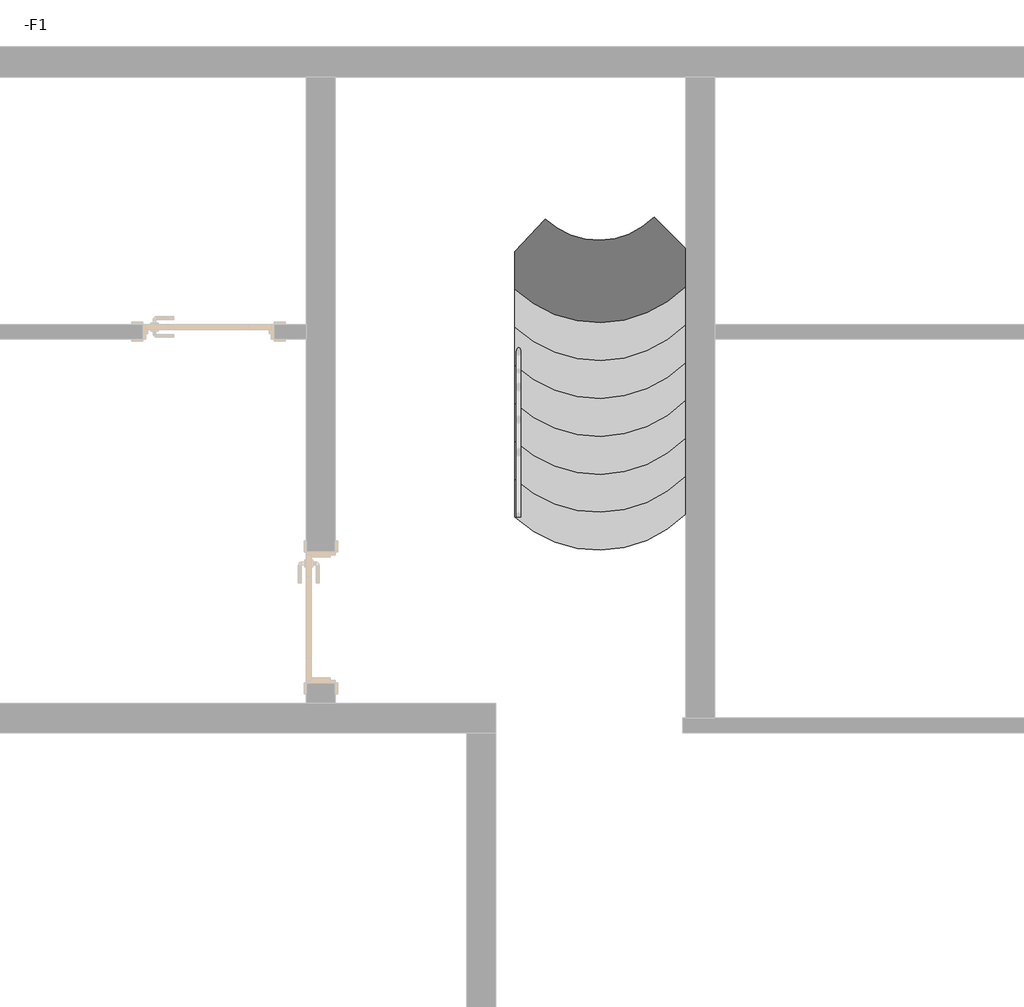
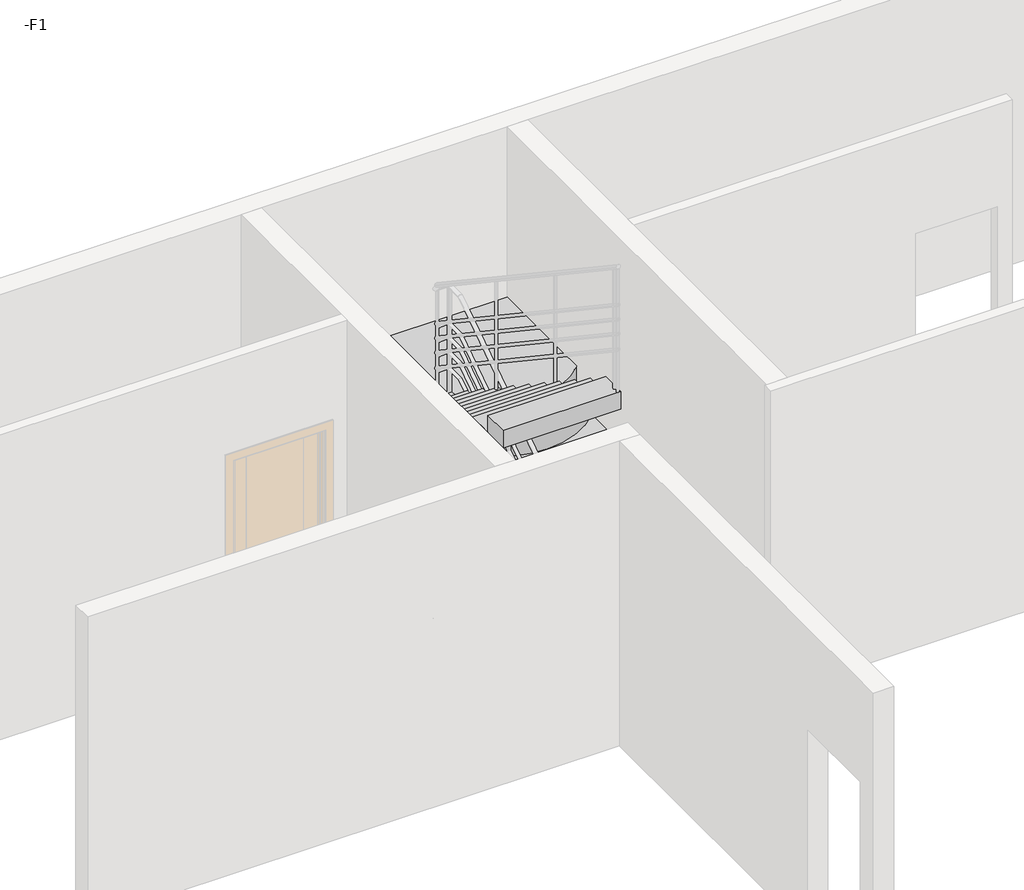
# One storey, part 3 of 3: 1 stair flight.
"""IFC4 building model written with IfcOpenShell, lengths in millimetres."""

import ifcopenshell
import ifcopenshell.guid

model = None  # the IFC model being written
_history = None  # IfcOwnerHistory: only IFC2X3 demands one
_inside = {}  # id of a spatial element -> (the spatial element, [elements in it])
_under = {}  # id of a project, library or spatial element -> (it, [spatial elements below it])
_declared = {}  # id of a project -> (the project, [libraries it declares])
_typed = {}  # id of a type object -> (the type object, [elements of that type])
_made_of = {}  # id of a material, layer set ... -> (it, [elements and type objects made of it])


def new_model(schema):
    """Start an empty IFC model of exactly this schema.

    Asked for "IFC4X3", IfcOpenShell would pick the latest addendum, in which some entities
    have other attributes; the version numbers below select the first issue.
    IFC2X3 requires an IfcOwnerHistory on every rooted entity: one is made here for all.
    """
    global model, _history
    if schema == "IFC4X3":
        model = ifcopenshell.file(schema_version=(4, 3, 0, 0))
    else:
        model = ifcopenshell.file(schema=schema)
    _inside.clear()
    _under.clear()
    _declared.clear()
    _typed.clear()
    _made_of.clear()
    _history = None
    if model.schema == "IFC2X3":
        org = make("IfcOrganization", Name="unknown")
        user = make(
            "IfcPersonAndOrganization",
            ThePerson=make("IfcPerson", FamilyName="unknown"),
            TheOrganization=org,
        )
        app = make(
            "IfcApplication",
            ApplicationDeveloper=org,
            Version="unknown",
            ApplicationFullName="unknown",
            ApplicationIdentifier="unknown",
        )
        _history = make(
            "IfcOwnerHistory",
            OwningUser=user,
            OwningApplication=app,
            ChangeAction="ADDED",
            CreationDate=0,
        )
    return model


def make(cls, **values):
    """One entity of the class cls with the attributes given. An attribute that is None is left unset."""
    return model.create_entity(
        cls, **{name: value for name, value in values.items() if value is not None}
    )


def rooted(cls, **values):
    """An entity with a GlobalId (a new one), such as an element, a storey or a relation."""
    return make(cls, GlobalId=ifcopenshell.guid.new(), OwnerHistory=_history, **values)


def si_unit(unit_type, name, prefix=None):
    """IfcSIUnit, for example si_unit("LENGTHUNIT", "METRE", prefix="MILLI")."""
    return make("IfcSIUnit", UnitType=unit_type, Prefix=prefix, Name=name)


def assignment(units):
    """IfcUnitAssignment: the units of a project."""
    return None if units is None else make("IfcUnitAssignment", Units=units)


def point(xyz):
    """IfcCartesianPoint."""
    return None if xyz is None else make("IfcCartesianPoint", Coordinates=xyz)


def direction(xyz):
    """IfcDirection."""
    return None if xyz is None else make("IfcDirection", DirectionRatios=xyz)


def frame(location, z_axis=None, x_axis=None):
    """IfcAxis2Placement3D, a coordinate frame: its origin and axes. An axis left out is left unset."""
    return make(
        "IfcAxis2Placement3D",
        Location=point(location),
        Axis=direction(z_axis),
        RefDirection=direction(x_axis),
    )


def origin():
    """The frame at (0, 0, 0) with its axes left unset."""
    return frame((0.0, 0.0, 0.0))


def place(relative_to, where):
    """IfcLocalPlacement: puts the frame where relative to a parent placement (None: the world)."""
    return make(
        "IfcLocalPlacement", PlacementRelTo=relative_to, RelativePlacement=where
    )


def context(
    kind, dimensions, precision=None, world=None, true_north=None, identifier=None
):
    """IfcGeometricRepresentationContext, for example the 3D "Model" context."""
    return make(
        "IfcGeometricRepresentationContext",
        ContextIdentifier=identifier,
        ContextType=kind,
        CoordinateSpaceDimension=dimensions,
        Precision=precision,
        WorldCoordinateSystem=world,
        TrueNorth=true_north,
    )


def project(units=None, contexts=None):
    """IfcProject with its units and contexts."""
    return rooted(
        "IfcProject",
        Name="project",
        RepresentationContexts=contexts,
        UnitsInContext=assignment(units),
    )


def spatial(cls, under=None, at=None, **own):
    """A site, building, storey or space (cls), placed at a placement, below another one or the project."""
    s = rooted(cls, ObjectPlacement=at, **own)
    if under is not None:
        _under.setdefault(under.id(), (under, []))[1].append(s)
    return s


def polyline(points):
    """IfcPolyline through the points."""
    return make("IfcPolyline", Points=[point(p) for p in points])


def circle_curve(where, radius):
    """IfcCircle in the frame where."""
    return make("IfcCircle", Position=where, Radius=radius)


def ellipse_curve(where, semi_axis1, semi_axis2):
    """IfcEllipse in the frame where."""
    return make(
        "IfcEllipse", Position=where, SemiAxis1=semi_axis1, SemiAxis2=semi_axis2
    )


def shape(context_of_items, identifier, shape_type, items):
    """IfcShapeRepresentation: the items that make up one representation, for example the "Body"."""
    return make(
        "IfcShapeRepresentation",
        ContextOfItems=context_of_items,
        RepresentationIdentifier=identifier,
        RepresentationType=shape_type,
        Items=items,
    )


def made_of(thing, what):
    """Note that an element or type object is made of a material, layer set ...; save() writes the relation."""
    if what is not None:
        _made_of.setdefault(what.id(), (what, []))[1].append(thing)
    return thing


def element(
    cls,
    number,
    at=None,
    inside=None,
    cuts=None,
    type_object=None,
    material=None,
    context=None,
    identifier="Body",
    shape_type=None,
    held_by="IfcProductDefinitionShape",
    body=None,
    shapes=None,
    **own,
):
    """One element of the class cls, such as IfcWall. Its Tag is "e" and its number.

    at: its placement. inside: the storey or other place that contains it. cuts: it is an
    opening in that element (IfcRelVoidsElement). A single representation is given by context,
    identifier, shape_type and body (its items); several are given by shapes. held_by: the class
    of the entity that holds the representations. save() writes the other relations.
    """
    e = rooted(cls, Tag="e%d" % number, ObjectPlacement=at, **own)
    if body is not None:
        shapes = [shape(context, identifier, shape_type, body)]
    if shapes is not None:
        e.Representation = make(held_by, Representations=shapes)
    if inside is not None:
        _inside.setdefault(inside.id(), (inside, []))[1].append(e)
    if cuts is not None:
        rooted(
            "IfcRelVoidsElement", RelatingBuildingElement=cuts, RelatedOpeningElement=e
        )
    if type_object is not None:
        _typed.setdefault(type_object.id(), (type_object, []))[1].append(e)
    return made_of(e, material)


def aggregate(whole, parts):
    """IfcRelAggregates: a whole, such as a stair, and the parts it consists of."""
    return rooted("IfcRelAggregates", RelatingObject=whole, RelatedObjects=parts)


def save(model, path):
    """Write the relations noted so far, then the file.

    IfcRelAggregates (storeys below a building ...), IfcRelContainedInSpatialStructure (elements
    in a storey), IfcRelDefinesByType, IfcRelAssociatesMaterial and IfcRelDeclares: one each for
    every whole, place, type object, material and project.
    """
    for whole, parts in _under.values():
        aggregate(whole, parts)
    for where, things in _inside.values():
        rooted(
            "IfcRelContainedInSpatialStructure",
            RelatedElements=things,
            RelatingStructure=where,
        )
    for kind, things in _typed.values():
        rooted("IfcRelDefinesByType", RelatedObjects=things, RelatingType=kind)
    for what, things in _made_of.values():
        rooted("IfcRelAssociatesMaterial", RelatedObjects=things, RelatingMaterial=what)
    for by, libraries in _declared.values():
        rooted("IfcRelDeclares", RelatingContext=by, RelatedDefinitions=libraries)
    model.write(path)


def plane_surface(at):
    """IfcPlane: the flat surface through the origin of the frame at, square to its z axis."""
    return make("IfcPlane", Position=at)


def cylinder_surface(at, radius):
    """IfcCylindricalSurface: all points at the distance radius from the z axis of the frame at."""
    return make("IfcCylindricalSurface", Position=at, Radius=radius)


def revolved_surface(curve, axis_point, axis_direction):
    """IfcSurfaceOfRevolution: the curve turned about the line through axis_point along axis_direction."""
    return make(
        "IfcSurfaceOfRevolution",
        SweptCurve=make("IfcArbitraryOpenProfileDef", ProfileType="CURVE", Curve=curve),
        AxisPosition=make("IfcAxis1Placement", Location=point(axis_point), Axis=direction(axis_direction)),
    )


def advanced_brep(points, edges, surfaces, faces):
    """IfcAdvancedBrep: a solid bounded by faces that lie on surfaces and meet in shared edges.

    An edge is (start, end): straight between two places in points (the first is 0);
    or (start, end, curve); or (start, end, curve, False) where it runs against its curve.
    A face is (place in surfaces, loops), or (place, loops, False) where it looks against
    its surface's normal. A loop lists edges by number (the first is 1), with a minus sign
    where the edge is run from its end to its start. The first loop is the outer one.
    """
    corners = [point(p) for p in points]
    vertices = [make("IfcVertexPoint", VertexGeometry=c) for c in corners]
    made = []
    for start, end, *more in edges:
        made.append(
            make(
                "IfcEdgeCurve",
                EdgeStart=vertices[start],
                EdgeEnd=vertices[end],
                EdgeGeometry=more[0] if more else make("IfcPolyline", Points=[corners[start], corners[end]]),
                SameSense=more[1] if len(more) > 1 else True,
            )
        )
    hull = []
    for where, loops, *sense in faces:
        bounds = []
        for j, loop in enumerate(loops):
            ring = [make("IfcOrientedEdge", EdgeElement=made[abs(k) - 1], Orientation=k > 0) for k in loop]
            bounds.append(
                make(
                    "IfcFaceOuterBound" if j == 0 else "IfcFaceBound",
                    Bound=make("IfcEdgeLoop", EdgeList=ring),
                    Orientation=True,
                )
            )
        hull.append(make("IfcAdvancedFace", Bounds=bounds, FaceSurface=surfaces[where], SameSense=sense[0] if sense else True))
    return make("IfcAdvancedBrep", Outer=make("IfcClosedShell", CfsFaces=hull))


model = new_model("IFC4")

# Units and contexts
model_context = context("Model", 3, world=origin())
ifc_project = project(units=[si_unit("LENGTHUNIT", "METRE", prefix="MILLI")], contexts=[model_context])

# Site, building, storey
site = spatial("IfcSite", under=ifc_project)
building = spatial("IfcBuilding", under=site)
storey = spatial("IfcBuildingStorey", under=building, Name="-F1", Elevation=-3300.0)

# Stair flight
placement = place(None, origin())
element("IfcStairFlight", 1, ObjectType="150mm 结构深度", at=placement, inside=storey, context=model_context, shape_type="AdvancedBrep", body=[
    advanced_brep(
    [(-11225.9782681, -2391.0286905, -3126.3157895), (-11225.9782681, -2651.0286905, -3126.3157895), (-10055.9782681, -2631.5689641, -3126.3157895), (-10055.9782681, -2371.5689641, -3126.3157895), (-11225.9782681, -2391.0286905, -3300.0), (-11225.9782681, -2651.0286905, -3300.0), (-10055.9782681, -2631.5689641, -3300.0), (-10055.9782681, -2371.5689641, -3300.0), (-11225.9782681, -2131.0286905, -2952.6315789), (-11225.9782681, -2391.0286905, -2952.6315789), (-10055.9782681, -2371.5689641, -2952.6315789), (-10055.9782681, -2111.5689641, -2952.6315789), (-11225.9782681, -2131.0286905, -3133.0292074), (-11225.9782681, -2380.9789073, -3300.0), (-10055.9782681, -2361.519181, -3300.0), (-10055.9782681, -2111.5689641, -3133.0292074), (-11225.9782681, -1871.0286905, -2778.9473684), (-11225.9782681, -2131.0286905, -2778.9473684), (-10055.9782681, -2111.5689641, -2778.9473684), (-10055.9782681, -1851.5689641, -2778.9473684), (-11225.9782681, -1871.0286905, -2959.3449968), (-10055.9782681, -1851.5689641, -2959.3449968), (-11225.9782681, -1611.0286905, -2605.2631579), (-11225.9782681, -1871.0286905, -2605.2631579), (-10055.9782681, -1851.5689641, -2605.2631579), (-10055.9782681, -1591.5689641, -2605.2631579), (-11225.9782681, -1611.0286905, -2785.6607863), (-10055.9782681, -1591.5689641, -2785.6607863), (-11225.9782681, -1351.0286905, -2431.5789474), (-11225.9782681, -1611.0286905, -2431.5789474), (-10055.9782681, -1591.5689641, -2431.5789474), (-10055.9782681, -1331.5689641, -2431.5789474), (-11225.9782681, -1351.0286905, -2611.9765758), (-10055.9782681, -1331.5689641, -2611.9765758), (-11225.9782681, -1091.0286905, -2257.8947368), (-11225.9782681, -1351.0286905, -2257.8947368), (-10055.9782681, -1331.5689641, -2257.8947368), (-10055.9782681, -1071.5689641, -2257.8947368), (-11225.9782681, -1091.0286905, -2438.2923652), (-10055.9782681, -1071.5689641, -2438.2923652), (-11225.9782681, -831.0286905, -2084.2105263), (-11225.9782681, -1091.0286905, -2084.2105263), (-10055.9782681, -1071.5689641, -2084.2105263), (-10055.9782681, -811.5689641, -2084.2105263), (-11225.9782681, -831.0286905, -2264.6081547), (-10055.9782681, -811.5689641, -2264.6081547), (-11285.9782681, -831.0286905, -1910.5263158), (-11285.9782681, -651.0286905, -1910.5263158), (-11225.9782681, -651.0286905, -1910.5263158), (-11225.9782681, -831.0286905, -1910.5263158), (-10055.9782681, -811.5689641, -1910.5263158), (-10055.9782681, 363.9713095, -1910.5263158), (-12435.9782681, 363.9713095, -1910.5263158), (-12435.9782681, -831.0286905, -1910.5263158), (-11285.9782681, -831.0286905, -2060.5263158), (-11285.9782681, -651.0286905, -2060.5263158), (-11225.9782681, -651.0286905, -2060.5263158), (-11225.9782681, -831.0286905, -2060.5263158), (-10055.9782681, -811.5689641, -2060.5263158), (-10055.9782681, 363.9713095, -2060.5263158), (-12435.9782681, 363.9713095, -2060.5263158), (-12435.9782681, -831.0286905, -2060.5263158), (-11285.9782681, -831.0286905, -1736.8421053), (-12435.9782681, -831.0286905, -1736.8421053), (-12435.9782681, -876.5214946, -1736.8421053), (-12435.9782681, -1091.0286905, -1736.8421053), (-11285.9782681, -1091.0286905, -1736.8421053), (-11285.9782681, -876.5214946, -1736.8421053), (-11285.9782681, -1091.0286905, -1917.2320352), (-11285.9782681, -876.5214946, -2060.5263158), (-12435.9782681, -876.5214946, -2060.5263158), (-12435.9782681, -1091.0286905, -1917.2320352), (-11285.9782681, -1351.0286905, -1563.1578947), (-11285.9782681, -1091.0286905, -1563.1578947), (-12435.9782681, -1091.0286905, -1563.1578947), (-12435.9782681, -1351.0286905, -1563.1578947), (-11285.9782681, -1351.0286905, -1743.5478246), (-12435.9782681, -1351.0286905, -1743.5478246), (-11285.9782681, -1611.0286905, -1389.4736842), (-11285.9782681, -1351.0286905, -1389.4736842), (-12435.9782681, -1351.0286905, -1389.4736842), (-12435.9782681, -1611.0286905, -1389.4736842), (-11285.9782681, -1611.0286905, -1569.8636141), (-12435.9782681, -1611.0286905, -1569.8636141), (-11285.9782681, -1871.0286905, -1215.7894737), (-11285.9782681, -1611.0286905, -1215.7894737), (-12435.9782681, -1611.0286905, -1215.7894737), (-12435.9782681, -1871.0286905, -1215.7894737), (-11285.9782681, -1871.0286905, -1396.1794036), (-12435.9782681, -1871.0286905, -1396.1794036), (-11285.9782681, -2131.0286905, -1042.1052632), (-11285.9782681, -1871.0286905, -1042.1052632), (-12435.9782681, -1871.0286905, -1042.1052632), (-12435.9782681, -2131.0286905, -1042.1052632), (-11285.9782681, -2131.0286905, -1222.4951931), (-12435.9782681, -2131.0286905, -1222.4951931), (-11285.9782681, -2391.0286905, -868.4210526), (-11285.9782681, -2131.0286905, -868.4210526), (-12435.9782681, -2131.0286905, -868.4210526), (-12435.9782681, -2391.0286905, -868.4210526), (-11285.9782681, -2391.0286905, -1048.8109825), (-12435.9782681, -2391.0286905, -1048.8109825), (-11285.9782681, -2651.0286905, -694.7368421), (-11285.9782681, -2391.0286905, -694.7368421), (-12435.9782681, -2391.0286905, -694.7368421), (-12435.9782681, -2651.0286905, -694.7368421), (-11285.9782681, -2651.0286905, -875.126772), (-12435.9782681, -2651.0286905, -875.126772), (-11285.9782681, -2911.0286905, -521.0526316), (-11285.9782681, -2651.0286905, -521.0526316), (-12435.9782681, -2651.0286905, -521.0526316), (-12435.9782681, -2911.0286905, -521.0526316), (-11285.9782681, -2911.0286905, -701.4425615), (-12435.9782681, -2911.0286905, -701.4425615), (-11285.9782681, -3171.0286905, -347.3684211), (-11285.9782681, -2911.0286905, -347.3684211), (-12435.9782681, -2911.0286905, -347.3684211), (-12435.9782681, -3171.0286905, -347.3684211), (-11285.9782681, -3171.0286905, -527.7583509), (-12435.9782681, -3171.0286905, -527.7583509), (-11285.9782681, -3431.0286905, -173.6842105), (-11285.9782681, -3171.0286905, -173.6842105), (-12435.9782681, -3171.0286905, -173.6842105), (-12435.9782681, -3431.0286905, -173.6842105), (-11285.9782681, -3431.0286905, -354.0741404), (-12435.9782681, -3431.0286905, -354.0741404), (-11285.9782681, -3691.0286905, 0.0), (-11285.9782681, -3431.0286905, 0.0), (-12435.9782681, -3431.0286905, 0.0), (-12435.9782681, -3691.0286905, 0.0), (-11285.9782681, -3691.0286905, -180.3899299), (-12435.9782681, -3691.0286905, -180.3899299), (-11016.6315402, -608.5853705, -2118.3383842), (-10272.6066214, -596.2105659, -2118.3383842), (-11016.6315402, -608.5853705, -2060.5263158), (-10272.6066214, -596.2105659, -2060.5263158)],
    [
        (0, 1),
        (1, 2, circle_curve(frame((-10650.9782681, -2040.0570728, -3126.3157895), z_axis=(0.0, 0.0, 1.0), x_axis=(1.0, 0.0, 0.0)), 838.9942297)),
        (2, 3),
        (3, 0, circle_curve(frame((-10650.9782681, -1780.0570728, -3126.3157895), z_axis=(0.0, 0.0, -1.0), x_axis=(1.0, 0.0, 0.0)), 838.9942297)),
        (0, 4),
        (4, 5),
        (5, 1),
        (5, 6, circle_curve(frame((-10650.9782681, -2040.0570728, -3300.0), z_axis=(0.0, 0.0, 1.0), x_axis=(1.0, 0.0, 0.0)), 838.9942297)),
        (6, 2),
        (6, 7),
        (7, 3),
        (8, 9),
        (9, 10, circle_curve(frame((-10650.9782681, -1780.0570728, -2952.6315789), z_axis=(0.0, 0.0, 1.0), x_axis=(1.0, 0.0, 0.0)), 838.9942297)),
        (10, 11),
        (11, 8, circle_curve(frame((-10650.9782681, -1520.0570728, -2952.6315789), z_axis=(0.0, 0.0, -1.0), x_axis=(1.0, 0.0, 0.0)), 838.9942297)),
        (0, 9),
        (8, 12),
        (12, 13),
        (13, 4),
        (3, 10),
        (7, 14),
        (14, 15),
        (15, 11),
        (16, 17),
        (17, 18, circle_curve(frame((-10650.9782681, -1520.0570728, -2778.9473684), z_axis=(0.0, 0.0, 1.0), x_axis=(1.0, 0.0, 0.0)), 838.9942297)),
        (18, 19),
        (19, 16, circle_curve(frame((-10650.9782681, -1260.0570728, -2778.9473684), z_axis=(0.0, 0.0, -1.0), x_axis=(1.0, 0.0, 0.0)), 838.9942297)),
        (16, 20),
        (20, 12),
        (8, 17),
        (11, 18),
        (15, 21),
        (21, 19),
        (22, 23),
        (23, 24, circle_curve(frame((-10650.9782681, -1260.0570728, -2605.2631579), z_axis=(0.0, 0.0, 1.0), x_axis=(1.0, 0.0, 0.0)), 838.9942297)),
        (24, 25),
        (25, 22, circle_curve(frame((-10650.9782681, -1000.0570728, -2605.2631579), z_axis=(0.0, 0.0, -1.0), x_axis=(1.0, 0.0, 0.0)), 838.9942297)),
        (22, 26),
        (26, 20),
        (16, 23),
        (19, 24),
        (21, 27),
        (27, 25),
        (28, 29),
        (29, 30, circle_curve(frame((-10650.9782681, -1000.0570728, -2431.5789474), z_axis=(0.0, 0.0, 1.0), x_axis=(1.0, 0.0, 0.0)), 838.9942297)),
        (30, 31),
        (31, 28, circle_curve(frame((-10650.9782681, -740.0570728, -2431.5789474), z_axis=(0.0, 0.0, -1.0), x_axis=(1.0, 0.0, 0.0)), 838.9942297)),
        (28, 32),
        (32, 26),
        (22, 29),
        (25, 30),
        (27, 33),
        (33, 31),
        (34, 35),
        (35, 36, circle_curve(frame((-10650.9782681, -740.0570728, -2257.8947368), z_axis=(0.0, 0.0, 1.0), x_axis=(1.0, 0.0, 0.0)), 838.9942297)),
        (36, 37),
        (37, 34, circle_curve(frame((-10650.9782681, -480.0570728, -2257.8947368), z_axis=(0.0, 0.0, -1.0), x_axis=(1.0, 0.0, 0.0)), 838.9942297)),
        (34, 38),
        (38, 32),
        (28, 35),
        (31, 36),
        (33, 39),
        (39, 37),
        (40, 41),
        (41, 42, circle_curve(frame((-10650.9782681, -480.0570728, -2084.2105263), z_axis=(0.0, 0.0, 1.0), x_axis=(1.0, 0.0, 0.0)), 838.9942297)),
        (42, 43),
        (43, 40, circle_curve(frame((-10650.9782681, -220.0570728, -2084.2105263), z_axis=(0.0, 0.0, -1.0), x_axis=(1.0, 0.0, 0.0)), 838.9942297)),
        (40, 44),
        (44, 38),
        (34, 41),
        (37, 42),
        (39, 45),
        (45, 43),
        (46, 47),
        (47, 48),
        (48, 49),
        (49, 50, circle_curve(frame((-10650.9782681, -220.0570728, -1910.5263158), z_axis=(0.0, 0.0, 1.0), x_axis=(1.0, 0.0, 0.0)), 838.9942297)),
        (50, 51),
        (51, 52),
        (52, 53),
        (53, 46),
        (46, 54),
        (54, 55),
        (55, 47),
        (55, 56),
        (56, 48),
        (56, 57),
        (57, 49),
        (43, 58),
        (58, 50),
        (57, 40),
        (58, 59),
        (59, 51),
        (59, 60),
        (60, 52),
        (60, 61),
        (61, 53),
        (62, 63),
        (63, 64),
        (64, 65),
        (65, 66),
        (66, 67),
        (67, 62),
        (46, 62),
        (66, 68),
        (68, 69),
        (69, 54),
        (53, 63),
        (61, 70),
        (70, 71),
        (71, 65),
        (72, 73),
        (73, 74),
        (74, 75),
        (75, 72),
        (72, 76),
        (76, 68),
        (66, 73),
        (65, 74),
        (71, 77),
        (77, 75),
        (78, 79),
        (79, 80),
        (80, 81),
        (81, 78),
        (78, 82),
        (82, 76),
        (72, 79),
        (75, 80),
        (77, 83),
        (83, 81),
        (84, 85),
        (85, 86),
        (86, 87),
        (87, 84),
        (84, 88),
        (88, 82),
        (78, 85),
        (81, 86),
        (83, 89),
        (89, 87),
        (90, 91),
        (91, 92),
        (92, 93),
        (93, 90),
        (90, 94),
        (94, 88),
        (84, 91),
        (87, 92),
        (89, 95),
        (95, 93),
        (96, 97),
        (97, 98),
        (98, 99),
        (99, 96),
        (96, 100),
        (100, 94),
        (90, 97),
        (93, 98),
        (95, 101),
        (101, 99),
        (102, 103),
        (103, 104),
        (104, 105),
        (105, 102),
        (102, 106),
        (106, 100),
        (96, 103),
        (99, 104),
        (101, 107),
        (107, 105),
        (108, 109),
        (109, 110),
        (110, 111),
        (111, 108),
        (108, 112),
        (112, 106),
        (102, 109),
        (105, 110),
        (107, 113),
        (113, 111),
        (114, 115),
        (115, 116),
        (116, 117),
        (117, 114),
        (114, 118),
        (118, 112),
        (108, 115),
        (111, 116),
        (113, 119),
        (119, 117),
        (120, 121),
        (121, 122),
        (122, 123),
        (123, 120),
        (120, 124),
        (124, 118),
        (114, 121),
        (117, 122),
        (119, 125),
        (125, 123),
        (126, 127),
        (127, 128),
        (128, 129),
        (129, 126),
        (126, 130),
        (130, 124),
        (120, 127),
        (123, 128),
        (125, 131),
        (131, 129),
        (131, 130),
        (13, 14),
        (132, 133, ellipse_curve(frame((-10650.9782681, -220.0570728, -1862.8578199), z_axis=(0.009238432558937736, -0.5554531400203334, 0.8314965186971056), x_axis=(-0.01382774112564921, 0.8313815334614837, 0.5555299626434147)), 641.6528951, 533.5321485)),
        (133, 45),
        (44, 132),
        (132, 134),
        (134, 135, circle_curve(frame((-10650.9782681, -220.0570728, -2060.5263158), z_axis=(0.0, 0.0, 1.0), x_axis=(1.0, 0.0, 0.0)), 533.5321485)),
        (135, 133),
        (135, 58),
        (57, 134),
        (69, 70),
    ],
    [
        plane_surface(frame((-11225.9782681, -651.0286905, -3126.3157895), z_axis=(0.0, 0.0, 1.0), x_axis=(0.0, -1.0, 0.0))),
        plane_surface(frame((-11225.9782681, -2391.0286905, -3126.3157895), z_axis=(-1.0, 0.0, 0.0), x_axis=(0.0, 0.0, -1.0))),
        cylinder_surface(frame((-10650.9782681, -2040.0570728, -3994.7368421), z_axis=(0.0, 0.0, 1.0), x_axis=(1.0, 0.0, 0.0)), 838.9942297),
        plane_surface(frame((-10055.9782681, -2631.5689641, -3126.3157895), z_axis=(1.0, 0.0, 0.0), x_axis=(0.0, 0.0, -1.0))),
        plane_surface(frame((-11225.9782681, -391.0286905, -2952.6315789), z_axis=(0.0, 0.0, 1.0), x_axis=(0.0, -1.0, 0.0))),
        plane_surface(frame((-11225.9782681, -2131.0286905, -2952.6315789), z_axis=(-1.0, 0.0, 0.0), x_axis=(0.0, 0.0, -1.0))),
        cylinder_surface(frame((-10650.9782681, -1780.0570728, -3821.0526316), z_axis=(0.0, 0.0, 1.0), x_axis=(1.0, 0.0, 0.0)), 838.9942297),
        plane_surface(frame((-10055.9782681, -2371.5689641, -2952.6315789), z_axis=(1.0, 0.0, 0.0), x_axis=(0.0, 0.0, -1.0))),
        plane_surface(frame((-11225.9782681, -131.0286905, -2778.9473684), z_axis=(0.0, 0.0, 1.0), x_axis=(0.0, -1.0, 0.0))),
        plane_surface(frame((-11225.9782681, -1871.0286905, -2778.9473684), z_axis=(-1.0, 0.0, 0.0), x_axis=(0.0, 0.0, -1.0))),
        cylinder_surface(frame((-10650.9782681, -1520.0570728, -3647.3684211), z_axis=(0.0, 0.0, 1.0), x_axis=(1.0, 0.0, 0.0)), 838.9942297),
        plane_surface(frame((-10055.9782681, -2111.5689641, -2778.9473684), z_axis=(1.0, 0.0, 0.0), x_axis=(0.0, 0.0, -1.0))),
        plane_surface(frame((-11225.9782681, 128.9713095, -2605.2631579), z_axis=(0.0, 0.0, 1.0), x_axis=(0.0, -1.0, 0.0))),
        plane_surface(frame((-11225.9782681, -1611.0286905, -2605.2631579), z_axis=(-1.0, 0.0, 0.0), x_axis=(0.0, 0.0, -1.0))),
        cylinder_surface(frame((-10650.9782681, -1260.0570728, -3473.6842105), z_axis=(0.0, 0.0, 1.0), x_axis=(1.0, 0.0, 0.0)), 838.9942297),
        plane_surface(frame((-10055.9782681, -1851.5689641, -2605.2631579), z_axis=(1.0, 0.0, 0.0), x_axis=(0.0, 0.0, -1.0))),
        plane_surface(frame((-11225.9782681, 388.9713095, -2431.5789474), z_axis=(0.0, 0.0, 1.0), x_axis=(0.0, -1.0, 0.0))),
        plane_surface(frame((-11225.9782681, -1351.0286905, -2431.5789474), z_axis=(-1.0, 0.0, 0.0), x_axis=(0.0, 0.0, -1.0))),
        cylinder_surface(frame((-10650.9782681, -1000.0570728, -3300.0), z_axis=(0.0, 0.0, 1.0), x_axis=(1.0, 0.0, 0.0)), 838.9942297),
        plane_surface(frame((-10055.9782681, -1591.5689641, -2431.5789474), z_axis=(1.0, 0.0, 0.0), x_axis=(0.0, 0.0, -1.0))),
        plane_surface(frame((-11225.9782681, 648.9713095, -2257.8947368), z_axis=(0.0, 0.0, 1.0), x_axis=(0.0, -1.0, 0.0))),
        plane_surface(frame((-11225.9782681, -1091.0286905, -2257.8947368), z_axis=(-1.0, 0.0, 0.0), x_axis=(0.0, 0.0, -1.0))),
        cylinder_surface(frame((-10650.9782681, -740.0570728, -3126.3157895), z_axis=(0.0, 0.0, 1.0), x_axis=(1.0, 0.0, 0.0)), 838.9942297),
        plane_surface(frame((-10055.9782681, -1331.5689641, -2257.8947368), z_axis=(1.0, 0.0, 0.0), x_axis=(0.0, 0.0, -1.0))),
        plane_surface(frame((-11225.9782681, 908.9713095, -2084.2105263), z_axis=(0.0, 0.0, 1.0), x_axis=(0.0, -1.0, 0.0))),
        plane_surface(frame((-11225.9782681, -831.0286905, -2084.2105263), z_axis=(-1.0, 0.0, 0.0), x_axis=(0.0, 0.0, -1.0))),
        cylinder_surface(frame((-10650.9782681, -480.0570728, -2952.6315789), z_axis=(0.0, 0.0, 1.0), x_axis=(1.0, 0.0, 0.0)), 838.9942297),
        plane_surface(frame((-10055.9782681, -1071.5689641, -2084.2105263), z_axis=(1.0, 0.0, 0.0), x_axis=(0.0, 0.0, -1.0))),
        plane_surface(frame((-11285.9782681, -3691.0286905, -1910.5263158), z_axis=(0.0, 0.0, 1.0), x_axis=(0.0, 1.0, 0.0))),
        plane_surface(frame((-11285.9782681, -831.0286905, -1910.5263158), z_axis=(1.0, 0.0, 0.0), x_axis=(0.0, 0.0, -1.0))),
        plane_surface(frame((-11285.9782681, -651.0286905, -1910.5263158), z_axis=(0.0, -1.0, 0.0), x_axis=(0.0, 0.0, -1.0))),
        plane_surface(frame((-11225.9782681, -651.0286905, -1910.5263158), z_axis=(-1.0, 0.0, 0.0), x_axis=(0.0, 0.0, -1.0))),
        cylinder_surface(frame((-10650.9782681, -220.0570728, -2778.9473684), z_axis=(0.0, 0.0, 1.0), x_axis=(1.0, 0.0, 0.0)), 838.9942297),
        plane_surface(frame((-10055.9782681, -811.5689641, -1910.5263158), z_axis=(1.0, 0.0, 0.0), x_axis=(0.0, 0.0, -1.0))),
        plane_surface(frame((-10055.9782681, 363.9713095, -1910.5263158), z_axis=(0.0, 1.0, 0.0), x_axis=(0.0, 0.0, -1.0))),
        plane_surface(frame((-12435.9782681, 363.9713095, -1910.5263158), z_axis=(-1.0, 0.0, 0.0), x_axis=(0.0, 0.0, -1.0))),
        plane_surface(frame((-11285.9782681, -3691.0286905, -1736.8421053), z_axis=(0.0, 0.0, 1.0), x_axis=(0.0, 1.0, 0.0))),
        plane_surface(frame((-11285.9782681, -1091.0286905, -1736.8421053), z_axis=(1.0, 0.0, 0.0), x_axis=(0.0, 0.0, -1.0))),
        plane_surface(frame((-11285.9782681, -831.0286905, -1736.8421053), z_axis=(0.0, 1.0, 0.0), x_axis=(0.0, 0.0, -1.0))),
        plane_surface(frame((-12435.9782681, -831.0286905, -1736.8421053), z_axis=(-1.0, 0.0, 0.0), x_axis=(0.0, 0.0, -1.0))),
        plane_surface(frame((-11285.9782681, -3951.0286905, -1563.1578947), z_axis=(0.0, 0.0, 1.0), x_axis=(0.0, 1.0, 0.0))),
        plane_surface(frame((-11285.9782681, -1351.0286905, -1563.1578947), z_axis=(1.0, 0.0, 0.0), x_axis=(0.0, 0.0, -1.0))),
        plane_surface(frame((-11285.9782681, -1091.0286905, -1563.1578947), z_axis=(0.0, 1.0, 0.0), x_axis=(0.0, 0.0, -1.0))),
        plane_surface(frame((-12435.9782681, -1091.0286905, -1563.1578947), z_axis=(-1.0, 0.0, 0.0), x_axis=(0.0, 0.0, -1.0))),
        plane_surface(frame((-11285.9782681, -4211.0286905, -1389.4736842), z_axis=(0.0, 0.0, 1.0), x_axis=(0.0, 1.0, 0.0))),
        plane_surface(frame((-11285.9782681, -1611.0286905, -1389.4736842), z_axis=(1.0, 0.0, 0.0), x_axis=(0.0, 0.0, -1.0))),
        plane_surface(frame((-11285.9782681, -1351.0286905, -1389.4736842), z_axis=(0.0, 1.0, 0.0), x_axis=(0.0, 0.0, -1.0))),
        plane_surface(frame((-12435.9782681, -1351.0286905, -1389.4736842), z_axis=(-1.0, 0.0, 0.0), x_axis=(0.0, 0.0, -1.0))),
        plane_surface(frame((-11285.9782681, -4471.0286905, -1215.7894737), z_axis=(0.0, 0.0, 1.0), x_axis=(0.0, 1.0, 0.0))),
        plane_surface(frame((-11285.9782681, -1871.0286905, -1215.7894737), z_axis=(1.0, 0.0, 0.0), x_axis=(0.0, 0.0, -1.0))),
        plane_surface(frame((-11285.9782681, -1611.0286905, -1215.7894737), z_axis=(0.0, 1.0, 0.0), x_axis=(0.0, 0.0, -1.0))),
        plane_surface(frame((-12435.9782681, -1611.0286905, -1215.7894737), z_axis=(-1.0, 0.0, 0.0), x_axis=(0.0, 0.0, -1.0))),
        plane_surface(frame((-11285.9782681, -4731.0286905, -1042.1052632), z_axis=(0.0, 0.0, 1.0), x_axis=(0.0, 1.0, 0.0))),
        plane_surface(frame((-11285.9782681, -2131.0286905, -1042.1052632), z_axis=(1.0, 0.0, 0.0), x_axis=(0.0, 0.0, -1.0))),
        plane_surface(frame((-11285.9782681, -1871.0286905, -1042.1052632), z_axis=(0.0, 1.0, 0.0), x_axis=(0.0, 0.0, -1.0))),
        plane_surface(frame((-12435.9782681, -1871.0286905, -1042.1052632), z_axis=(-1.0, 0.0, 0.0), x_axis=(0.0, 0.0, -1.0))),
        plane_surface(frame((-11285.9782681, -4991.0286905, -868.4210526), z_axis=(0.0, 0.0, 1.0), x_axis=(0.0, 1.0, 0.0))),
        plane_surface(frame((-11285.9782681, -2391.0286905, -868.4210526), z_axis=(1.0, 0.0, 0.0), x_axis=(0.0, 0.0, -1.0))),
        plane_surface(frame((-11285.9782681, -2131.0286905, -868.4210526), z_axis=(0.0, 1.0, 0.0), x_axis=(0.0, 0.0, -1.0))),
        plane_surface(frame((-12435.9782681, -2131.0286905, -868.4210526), z_axis=(-1.0, 0.0, 0.0), x_axis=(0.0, 0.0, -1.0))),
        plane_surface(frame((-11285.9782681, -5251.0286905, -694.7368421), z_axis=(0.0, 0.0, 1.0), x_axis=(0.0, 1.0, 0.0))),
        plane_surface(frame((-11285.9782681, -2651.0286905, -694.7368421), z_axis=(1.0, 0.0, 0.0), x_axis=(0.0, 0.0, -1.0))),
        plane_surface(frame((-11285.9782681, -2391.0286905, -694.7368421), z_axis=(0.0, 1.0, 0.0), x_axis=(0.0, 0.0, -1.0))),
        plane_surface(frame((-12435.9782681, -2391.0286905, -694.7368421), z_axis=(-1.0, 0.0, 0.0), x_axis=(0.0, 0.0, -1.0))),
        plane_surface(frame((-11285.9782681, -5511.0286905, -521.0526316), z_axis=(0.0, 0.0, 1.0), x_axis=(0.0, 1.0, 0.0))),
        plane_surface(frame((-11285.9782681, -2911.0286905, -521.0526316), z_axis=(1.0, 0.0, 0.0), x_axis=(0.0, 0.0, -1.0))),
        plane_surface(frame((-11285.9782681, -2651.0286905, -521.0526316), z_axis=(0.0, 1.0, 0.0), x_axis=(0.0, 0.0, -1.0))),
        plane_surface(frame((-12435.9782681, -2651.0286905, -521.0526316), z_axis=(-1.0, 0.0, 0.0), x_axis=(0.0, 0.0, -1.0))),
        plane_surface(frame((-11285.9782681, -5771.0286905, -347.3684211), z_axis=(0.0, 0.0, 1.0), x_axis=(0.0, 1.0, 0.0))),
        plane_surface(frame((-11285.9782681, -3171.0286905, -347.3684211), z_axis=(1.0, 0.0, 0.0), x_axis=(0.0, 0.0, -1.0))),
        plane_surface(frame((-11285.9782681, -2911.0286905, -347.3684211), z_axis=(0.0, 1.0, 0.0), x_axis=(0.0, 0.0, -1.0))),
        plane_surface(frame((-12435.9782681, -2911.0286905, -347.3684211), z_axis=(-1.0, 0.0, 0.0), x_axis=(0.0, 0.0, -1.0))),
        plane_surface(frame((-11285.9782681, -6031.0286905, -173.6842105), z_axis=(0.0, 0.0, 1.0), x_axis=(0.0, 1.0, 0.0))),
        plane_surface(frame((-11285.9782681, -3431.0286905, -173.6842105), z_axis=(1.0, 0.0, 0.0), x_axis=(0.0, 0.0, -1.0))),
        plane_surface(frame((-11285.9782681, -3171.0286905, -173.6842105), z_axis=(0.0, 1.0, 0.0), x_axis=(0.0, 0.0, -1.0))),
        plane_surface(frame((-12435.9782681, -3171.0286905, -173.6842105), z_axis=(-1.0, 0.0, 0.0), x_axis=(0.0, 0.0, -1.0))),
        plane_surface(frame((-11285.9782681, -6291.0286905, 0.0), z_axis=(0.0, 0.0, 1.0), x_axis=(0.0, 1.0, 0.0))),
        plane_surface(frame((-11285.9782681, -3691.0286905, 0.0), z_axis=(1.0, 0.0, 0.0), x_axis=(0.0, 0.0, -1.0))),
        plane_surface(frame((-11285.9782681, -3431.0286905, 0.0), z_axis=(0.0, 1.0, 0.0), x_axis=(0.0, 0.0, -1.0))),
        plane_surface(frame((-12435.9782681, -3431.0286905, 0.0), z_axis=(-1.0, 0.0, 0.0), x_axis=(0.0, 0.0, -1.0))),
        plane_surface(frame((-12435.9782681, -3691.0286905, 0.0), z_axis=(0.0, -1.0, 0.0), x_axis=(0.0, 0.0, -1.0))),
        plane_surface(frame((0.0, 0.0, -3300.0), z_axis=(0.0, 0.0, -1.0), x_axis=(1.0, 0.0, 0.0))),
        plane_surface(frame((-10640.9782681, -2641.2988273, -3480.3976284), z_axis=(-0.009238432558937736, 0.5554531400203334, -0.8314965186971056), x_axis=(0.9999573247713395, 0.005131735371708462, -0.0076820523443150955))),
        revolved_surface(polyline([(-10117.4461196, -220.0570728, -1506.4004110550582), (-10117.4461196, -220.0570728, -2219.315228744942)]), (-10650.9782681, -220.0570728, -3300.0), (0.0, 0.0, 1.0)),
        plane_surface(frame((-10272.6066214, -596.2105659, -2118.3383842), z_axis=(0.705024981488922, 0.709182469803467, 0.0), x_axis=(0.0, 0.0, 1.0))),
        plane_surface(frame((-11225.9782681, -831.0286905, -2264.6081547), z_axis=(-0.7282190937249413, 0.6853444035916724, 0.0), x_axis=(0.0, 0.0, 1.0))),
        plane_surface(frame((-11285.9782681, -3691.0286905, -2060.5263158), z_axis=(0.0, 0.0, -1.0), x_axis=(0.0, -1.0, 0.0))),
        plane_surface(frame((-11860.9782681, -831.0286905, -2090.9162457), z_axis=(0.0, -0.5554768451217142, -0.8315320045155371), x_axis=(1.0, 0.0, 0.0))),
    ],
    [
        (0, [[1, 2, 3, 4]]),
        (1, [[-1, 5, 6, 7]]),
        (2, [[-2, -7, 8, 9]]),
        (3, [[-3, -9, 10, 11]]),
        (4, [[12, 13, 14, 15]]),
        (5, [[-5, 16, -12, 17, 18, 19]]),
        (6, [[-4, 20, -13, -16]]),
        (7, [[-11, 21, 22, 23, -14, -20]]),
        (8, [[24, 25, 26, 27]]),
        (9, [[-24, 28, 29, -17, 30]]),
        (10, [[-15, 31, -25, -30]]),
        (11, [[-26, -31, -23, 32, 33]]),
        (12, [[34, 35, 36, 37]]),
        (13, [[-34, 38, 39, -28, 40]]),
        (14, [[-27, 41, -35, -40]]),
        (15, [[-36, -41, -33, 42, 43]]),
        (16, [[44, 45, 46, 47]]),
        (17, [[-44, 48, 49, -38, 50]]),
        (18, [[-37, 51, -45, -50]]),
        (19, [[-46, -51, -43, 52, 53]]),
        (20, [[54, 55, 56, 57]]),
        (21, [[-54, 58, 59, -48, 60]]),
        (22, [[-47, 61, -55, -60]]),
        (23, [[-56, -61, -53, 62, 63]]),
        (24, [[64, 65, 66, 67]]),
        (25, [[-64, 68, 69, -58, 70]]),
        (26, [[-57, 71, -65, -70]]),
        (27, [[-66, -71, -63, 72, 73]]),
        (28, [[74, 75, 76, 77, 78, 79, 80, 81]]),
        (29, [[-74, 82, 83, 84]]),
        (30, [[-75, -84, 85, 86]]),
        (31, [[-76, -86, 87, 88]]),
        (32, [[-67, 89, 90, -77, -88, 91]]),
        (33, [[-78, -90, 92, 93]]),
        (34, [[-79, -93, 94, 95]]),
        (35, [[-80, -95, 96, 97]]),
        (36, [[98, 99, 100, 101, 102, 103]]),
        (37, [[104, -103, -102, 105, 106, 107, -82]]),
        (38, [[-81, 108, -98, -104]]),
        (39, [[-108, -97, 109, 110, 111, -100, -99]]),
        (40, [[112, 113, 114, 115]]),
        (41, [[-112, 116, 117, -105, 118]]),
        (42, [[-101, 119, -113, -118]]),
        (43, [[-114, -119, -111, 120, 121]]),
        (44, [[122, 123, 124, 125]]),
        (45, [[-122, 126, 127, -116, 128]]),
        (46, [[-115, 129, -123, -128]]),
        (47, [[-124, -129, -121, 130, 131]]),
        (48, [[132, 133, 134, 135]]),
        (49, [[-132, 136, 137, -126, 138]]),
        (50, [[-125, 139, -133, -138]]),
        (51, [[-134, -139, -131, 140, 141]]),
        (52, [[142, 143, 144, 145]]),
        (53, [[-142, 146, 147, -136, 148]]),
        (54, [[-135, 149, -143, -148]]),
        (55, [[-144, -149, -141, 150, 151]]),
        (56, [[152, 153, 154, 155]]),
        (57, [[-152, 156, 157, -146, 158]]),
        (58, [[-145, 159, -153, -158]]),
        (59, [[-154, -159, -151, 160, 161]]),
        (60, [[162, 163, 164, 165]]),
        (61, [[-162, 166, 167, -156, 168]]),
        (62, [[-155, 169, -163, -168]]),
        (63, [[-164, -169, -161, 170, 171]]),
        (64, [[172, 173, 174, 175]]),
        (65, [[-172, 176, 177, -166, 178]]),
        (66, [[-165, 179, -173, -178]]),
        (67, [[-174, -179, -171, 180, 181]]),
        (68, [[182, 183, 184, 185]]),
        (69, [[-182, 186, 187, -176, 188]]),
        (70, [[-175, 189, -183, -188]]),
        (71, [[-184, -189, -181, 190, 191]]),
        (72, [[192, 193, 194, 195]]),
        (73, [[-192, 196, 197, -186, 198]]),
        (74, [[-185, 199, -193, -198]]),
        (75, [[-194, -199, -191, 200, 201]]),
        (76, [[202, 203, 204, 205]]),
        (77, [[-202, 206, 207, -196, 208]]),
        (78, [[-195, 209, -203, -208]]),
        (79, [[-204, -209, -201, 210, 211]]),
        (80, [[-205, -211, 212, -206]]),
        (81, [[-6, -19, 213, -21, -10, -8]]),
        (82, [[214, 215, -72, -62, -52, -42, -32, -22, -213, -18, -29, -39, -49, -59, -69, 216]]),
        (83, [[-214, 217, 218, 219]]),
        (84, [[-215, -219, 220, -89, -73]]),
        (85, [[-216, -68, -91, 221, -217]]),
        (86, [[-218, -221, -87, -85, -83, -107, 222, -109, -96, -94, -92, -220]]),
        (87, [[-222, -106, -117, -127, -137, -147, -157, -167, -177, -187, -197, -207, -212, -210, -200, -190, -180, -170, -160, -150, -140, -130, -120, -110]]),
    ],
),
])

save(model, "model.ifc")
